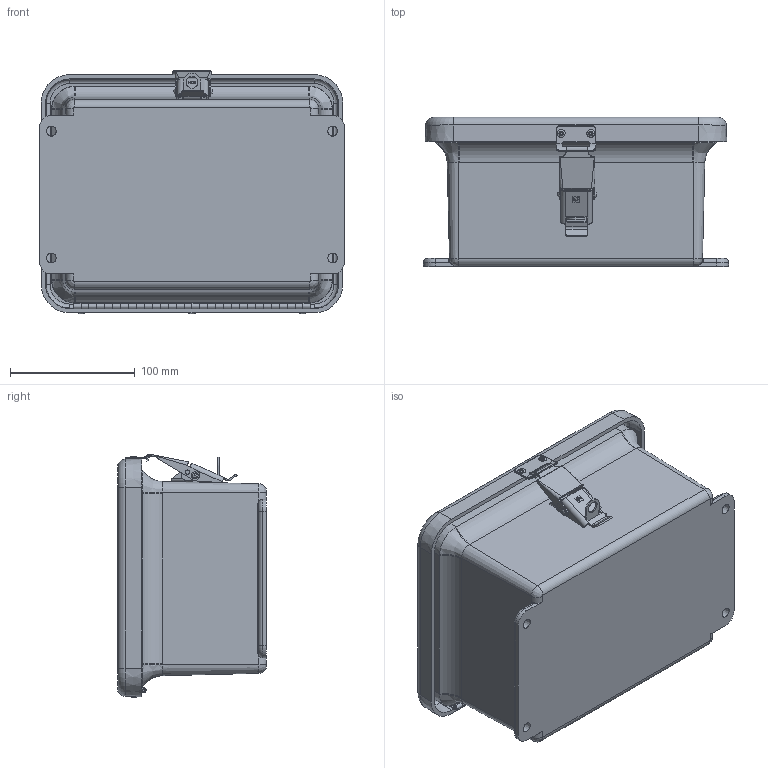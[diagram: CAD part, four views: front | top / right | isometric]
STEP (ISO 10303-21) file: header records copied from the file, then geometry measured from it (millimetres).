
FILE_DESCRIPTION((''),'2;1');
FILE_NAME('S:\Stahlin Enclosures\18087\cadfiles\18087-STAHLIN\J-SERIES ASSY\step files\806\JW806HPL.stp','2007-09-12T09:31:33',('pmescher'),(''),'Autodesk Inventor 11','Autodesk Inventor 11','');
FILE_SCHEMA(('AUTOMOTIVE_DESIGN { 1 0 10303 214 1 1 1 1 }'));
Length unit declared in the file: inch
Products named in the file (22): JW806HPL; J806BHL; J806HL_2; RMINS45821P_207; RMINS45821P_208; RMINS45821P_209; RMINS45821P_210; JW806HLCVR; GASKET_806; WINDOW_806; RMHING7.5(J806); RMHINGCOV7.5; RMHINGBOX7.5; RMHINGPIN7.5; RMRIV43; RMLATJHPL_19; HPL ANCHOR PLATE; HPL LOCKING LAYER; HPL HOOK BLADE; HPL latch pin; HPL latch pin 2; RMKEEPJHPL
Assembly tree (29 placements, depth 3):
  JW806HPL
    J806BHL
      J806HL_2
      RMINS45821P_207
      RMINS45821P_208
      RMINS45821P_209
      RMINS45821P_210
    JW806HLCVR
    GASKET_806
    WINDOW_806
    RMHING7.5(J806)
      RMHINGCOV7.5
      RMHINGBOX7.5
      RMHINGPIN7.5
    RMRIV43  x9
    RMLATJHPL_19
      HPL ANCHOR PLATE
      HPL LOCKING LAYER
      HPL HOOK BLADE
      HPL latch pin
      HPL latch pin 2
    RMKEEPJHPL
Bounding box: 244.47 x 119.35 x 195.18 mm (x, y, z)
Volume: 807096.4 mm3; surface area: 412717.1 mm2
Topology: 26 solids, 26 shells, 733 faces, 1851 edges, 1192 vertices
Faces by surface type: plane 295, cylinder 222, bspline 147, cone 37, torus 32
Full cylindrical faces by diameter (mm): 2.159 x1, 2.921 x1, 3.175 x9, 3.429 x3, 3.556 x7, 6.35 x9, 6.858 x4
Entity records: 25034 total; most frequent: CARTESIAN_POINT 7868, DIRECTION 3486, ORIENTED_EDGE 3314, EDGE_CURVE 1657, AXIS2_PLACEMENT_3D 1298, VERTEX_POINT 1122, EDGE_LOOP 937, VECTOR 890
